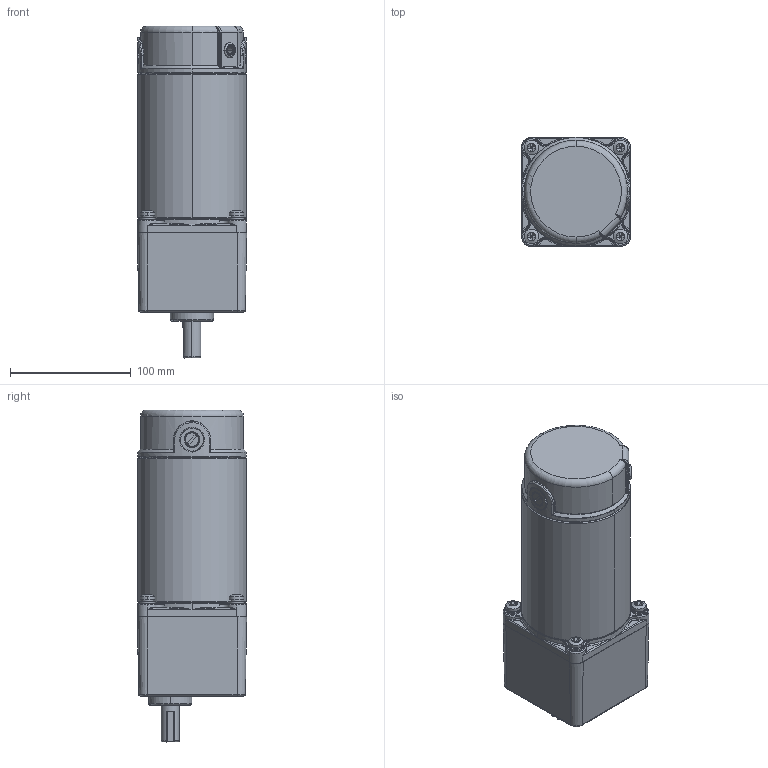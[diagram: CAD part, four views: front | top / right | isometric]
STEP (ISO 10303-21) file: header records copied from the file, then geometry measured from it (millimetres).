
FILE_DESCRIPTION (( 'STEP AP203' ), '1' );
FILE_NAME ('外径90配5GU齿轮箱-120机壳.STEP', '2021-07-12T07:06:16', ( '' ), ( '' ), 'SwSTEP 2.0', 'SolidWorks 2021', '' );
FILE_SCHEMA (( 'CONFIG_CONTROL_DESIGN' ));
Length unit declared in the file: millimetre
Products named in the file (9): P; L; Z55D-300W-L_1; 90-3; 外径90配5GU齿轮箱-120机壳; PRT0003; PRT0001; PRT0002; T
Assembly tree (21 placements, depth 3):
  外径90配5GU齿轮箱-120机壳
    Z55D-300W-L_1
      L  x6
      P  x4
      PRT0001
      T  x6
      PRT0003
      PRT0002
    90-3
Bounding box: 90.38 x 90.38 x 274.5 mm (x, y, z)
Volume: 761298.5 mm3; surface area: 179568.5 mm2
Topology: 22 solids, 22 shells, 829 faces, 1954 edges, 1192 vertices
Faces by surface type: cylinder 266, cone 203, plane 179, torus 89, bspline 88, sphere 4
Entity records: 29124 total; most frequent: CARTESIAN_POINT 16097, ORIENTED_EDGE 2574, DIRECTION 2245, EDGE_CURVE 1287, AXIS2_PLACEMENT_3D 938, VERTEX_POINT 783, EDGE_LOOP 604, FACE_OUTER_BOUND 547
